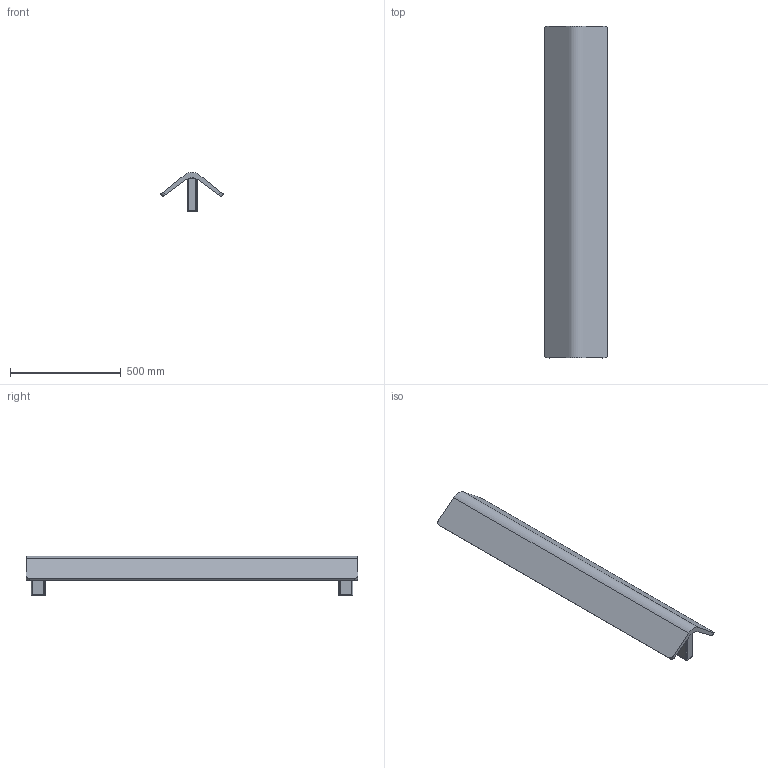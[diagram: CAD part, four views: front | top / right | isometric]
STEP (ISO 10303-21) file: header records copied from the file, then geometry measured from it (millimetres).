
FILE_DESCRIPTION(/* description */ (''),/* implementation_level */ '2;1');
FILE_NAME(/* name */ 'Vika Wall horizontal light.stp',/* time_stamp */ '2025-03-09T11:21:15+01:00',/* author */ ('ergr'),/* organization */ (''),/* preprocessor_version */ 'ST-DEVELOPER v19.2',/* originating_system */ 'Autodesk Inventor 2023',/* authorisation */ '');
FILE_SCHEMA (('AUTOMOTIVE_DESIGN { 1 0 10303 214 3 1 1 }'));
Length unit declared in the file: millimetre
Products named in the file (1): 117161_Simplify_1
Bounding box: 283.34 x 1500 x 178.5 mm (x, y, z)
Volume: 10414949.3 mm3; surface area: 1329649.7 mm2
Topology: 1 solids, 1 shells, 147 faces, 420 edges, 268 vertices
Faces by surface type: plane 105, cylinder 39, torus 2, cone 1
Full cylindrical faces by diameter (mm): 26.2 x1, 30 x3, 32 x1
Entity records: 5132 total; most frequent: CARTESIAN_POINT 962, ORIENTED_EDGE 840, DIRECTION 823, EDGE_CURVE 420, LINE 281, VECTOR 281, AXIS2_PLACEMENT_3D 271, VERTEX_POINT 268
